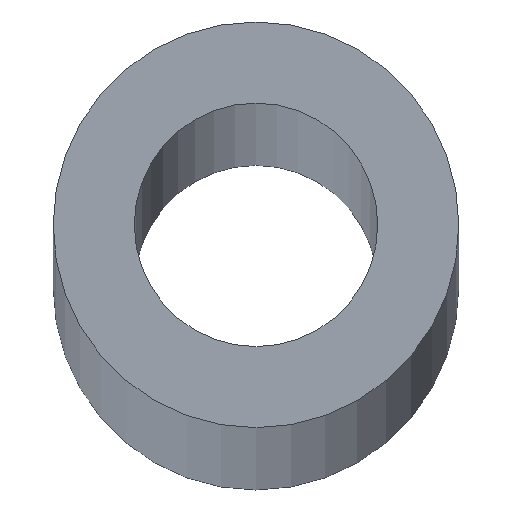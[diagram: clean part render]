
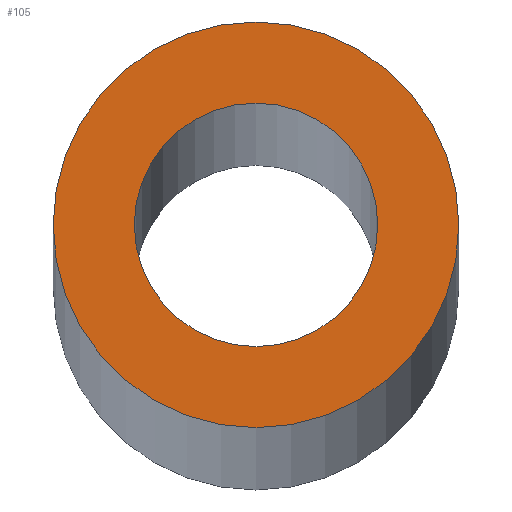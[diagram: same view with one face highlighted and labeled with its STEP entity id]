
A CAD part, top view. The second image highlights one B-rep face of the part: STEP entity #105.
In plain terms, the highlighted planar face has unit normal (0, 0, 1).
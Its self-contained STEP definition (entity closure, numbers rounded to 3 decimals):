
#21 = EDGE_CURVE('',#22,#22,#24,.T.);
#22 = VERTEX_POINT('',#23);
#23 = CARTESIAN_POINT('',(24.5,-100.,220.));
#24 = SURFACE_CURVE('',#25,(#30,#42),.PCURVE_S1.);
#25 = CIRCLE('',#26,2.5);
#26 = AXIS2_PLACEMENT_3D('',#27,#28,#29);
#27 = CARTESIAN_POINT('',(22.,-100.,220.));
#28 = DIRECTION('',(0.,0.,1.));
#29 = DIRECTION('',(1.,0.,-0.));
#30 = PCURVE('',#31,#36);
#31 = CYLINDRICAL_SURFACE('',#32,2.5);
#32 = AXIS2_PLACEMENT_3D('',#33,#34,#35);
#33 = CARTESIAN_POINT('',(22.,-100.,-220.));
#34 = DIRECTION('',(0.,0.,1.));
#35 = DIRECTION('',(1.,0.,-0.));
#36 = DEFINITIONAL_REPRESENTATION('',(#37),#41);
#37 = LINE('',#38,#39);
#38 = CARTESIAN_POINT('',(0.,440.));
#39 = VECTOR('',#40,1.);
#40 = DIRECTION('',(1.,0.));
#41 = ( GEOMETRIC_REPRESENTATION_CONTEXT(2) 
PARAMETRIC_REPRESENTATION_CONTEXT() REPRESENTATION_CONTEXT('2D SPACE',''
  ) );
#42 = PCURVE('',#43,#48);
#43 = PLANE('',#44);
#44 = AXIS2_PLACEMENT_3D('',#45,#46,#47);
#45 = CARTESIAN_POINT('',(22.,-100.,220.));
#46 = DIRECTION('',(0.,0.,1.));
#47 = DIRECTION('',(1.,0.,-0.));
#48 = DEFINITIONAL_REPRESENTATION('',(#49),#53);
#49 = CIRCLE('',#50,2.5);
#50 = AXIS2_PLACEMENT_2D('',#51,#52);
#51 = CARTESIAN_POINT('',(0.,0.));
#52 = DIRECTION('',(1.,0.));
#53 = ( GEOMETRIC_REPRESENTATION_CONTEXT(2) 
PARAMETRIC_REPRESENTATION_CONTEXT() REPRESENTATION_CONTEXT('2D SPACE',''
  ) );
#105 = ADVANCED_FACE('',(#106,#109),#43,.T.);
#106 = FACE_BOUND('',#107,.T.);
#107 = EDGE_LOOP('',(#108));
#108 = ORIENTED_EDGE('',*,*,#21,.T.);
#109 = FACE_BOUND('',#110,.T.);
#110 = EDGE_LOOP('',(#111));
#111 = ORIENTED_EDGE('',*,*,#112,.F.);
#112 = EDGE_CURVE('',#113,#113,#115,.T.);
#113 = VERTEX_POINT('',#114);
#114 = CARTESIAN_POINT('',(23.5,-100.,220.));
#115 = SURFACE_CURVE('',#116,(#121,#128),.PCURVE_S1.);
#116 = CIRCLE('',#117,1.5);
#117 = AXIS2_PLACEMENT_3D('',#118,#119,#120);
#118 = CARTESIAN_POINT('',(22.,-100.,220.));
#119 = DIRECTION('',(0.,0.,1.));
#120 = DIRECTION('',(1.,0.,-0.));
#121 = PCURVE('',#43,#122);
#122 = DEFINITIONAL_REPRESENTATION('',(#123),#127);
#123 = CIRCLE('',#124,1.5);
#124 = AXIS2_PLACEMENT_2D('',#125,#126);
#125 = CARTESIAN_POINT('',(0.,0.));
#126 = DIRECTION('',(1.,0.));
#127 = ( GEOMETRIC_REPRESENTATION_CONTEXT(2) 
PARAMETRIC_REPRESENTATION_CONTEXT() REPRESENTATION_CONTEXT('2D SPACE',''
  ) );
#128 = PCURVE('',#129,#134);
#129 = CYLINDRICAL_SURFACE('',#130,1.5);
#130 = AXIS2_PLACEMENT_3D('',#131,#132,#133);
#131 = CARTESIAN_POINT('',(22.,-100.,-220.));
#132 = DIRECTION('',(0.,0.,1.));
#133 = DIRECTION('',(1.,0.,-0.));
#134 = DEFINITIONAL_REPRESENTATION('',(#135),#139);
#135 = LINE('',#136,#137);
#136 = CARTESIAN_POINT('',(0.,440.));
#137 = VECTOR('',#138,1.);
#138 = DIRECTION('',(1.,0.));
#139 = ( GEOMETRIC_REPRESENTATION_CONTEXT(2) 
PARAMETRIC_REPRESENTATION_CONTEXT() REPRESENTATION_CONTEXT('2D SPACE',''
  ) );
